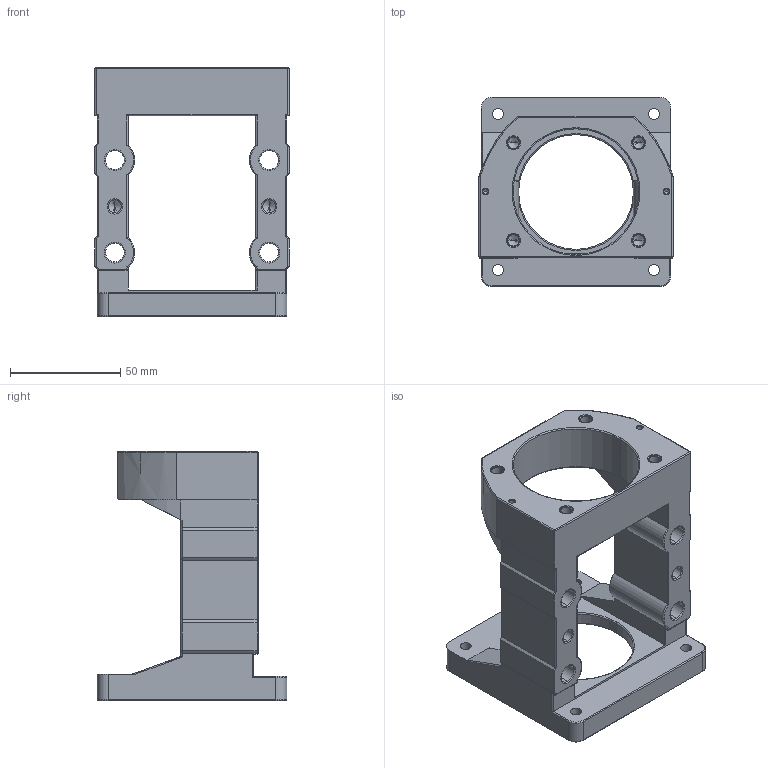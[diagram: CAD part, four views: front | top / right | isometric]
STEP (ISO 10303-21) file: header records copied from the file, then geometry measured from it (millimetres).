
FILE_DESCRIPTION (( 'STEP AP203' ), '1' );
FILE_NAME ('自化件傳動座外MBL20X本體.STEP', '2019-06-21T05:47:09', ( '' ), ( '' ), 'SwSTEP 2.0', 'SolidWorks 2018', '' );
FILE_SCHEMA (( 'CONFIG_CONTROL_DESIGN' ));
Length unit declared in the file: millimetre
Products named in the file (1): 自化件傳動座外MBL20X本體
Bounding box: 88 x 86 x 113 mm (x, y, z)
Volume: 179187.6 mm3; surface area: 51953.8 mm2
Topology: 1 solids, 1 shells, 283 faces, 688 edges, 401 vertices
Faces by surface type: cylinder 114, plane 60, torus 58, cone 49, sphere 2
Entity records: 8333 total; most frequent: CARTESIAN_POINT 1618, DIRECTION 1485, ORIENTED_EDGE 1340, EDGE_CURVE 670, AXIS2_PLACEMENT_3D 600, VERTEX_POINT 401, EDGE_LOOP 317, CIRCLE 316
